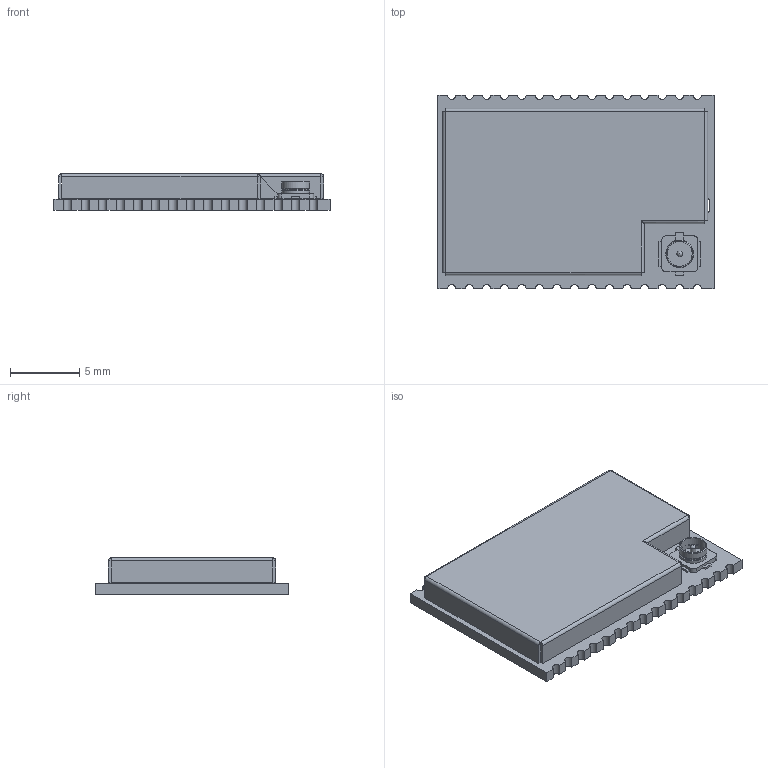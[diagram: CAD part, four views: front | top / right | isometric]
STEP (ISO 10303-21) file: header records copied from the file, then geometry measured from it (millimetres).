
FILE_DESCRIPTION(('KiCad electronic assembly'),'2;1');
FILE_NAME('10790-V1.0.step','2024-10-31T21:13:22',('Pcbnew'),('Kicad'), 'Open CASCADE STEP processor 7.7','KiCad to STEP converter','Unknown' );
FILE_SCHEMA(('AUTOMOTIVE_DESIGN { 1 0 10303 214 1 1 1 1 }'));
Length unit declared in the file: millimetre
Products named in the file (8): 10790-V1.0 1; C_0402_1005Metric; pbz-126; U.FL_Hirose_U.FL-R-SMT-1_Vertical; _autosave-10790-V1.0_PCB
Assembly tree (10 placements, depth 3):
  10790-V1.0 1
    C_0402_1005Metric  x4
      C_0402_1005Metric
    pbz-126
      pbz-126
    U.FL_Hirose_U.FL-R-SMT-1_Vertical
      U.FL_Hirose_U.FL-R-SMT-1_Vertical
    _autosave-10790-V1.0_PCB
Bounding box: 20 x 14 x 2.65 mm (x, y, z)
Volume: 285.5 mm3; surface area: 1285 mm2
Topology: 7 solids, 7 shells, 305 faces, 786 edges, 504 vertices
Faces by surface type: plane 171, cylinder 118, bspline 12, cone 3, sphere 1
Full cylindrical faces by diameter (mm): 0.4 x1, 1.8 x1, 1.92 x1, 2 x2
Entity records: 7627 total; most frequent: CARTESIAN_POINT 1557, ORIENTED_EDGE 1138, DIRECTION 1135, EDGE_CURVE 569, LINE 395, VECTOR 395, AXIS2_PLACEMENT_3D 370, VERTEX_POINT 360
